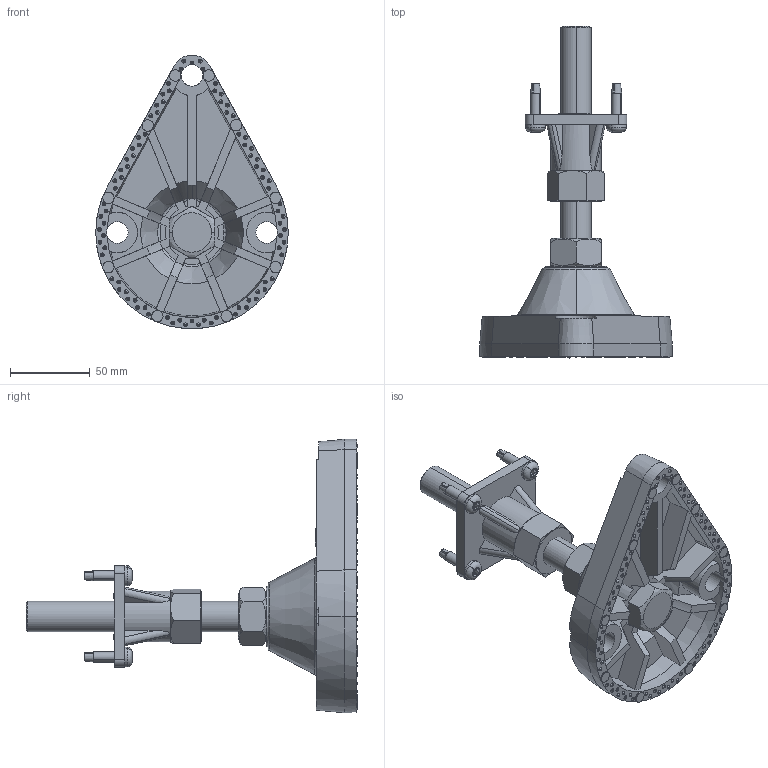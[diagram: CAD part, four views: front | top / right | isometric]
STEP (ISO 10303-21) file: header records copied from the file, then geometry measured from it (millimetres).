
FILE_DESCRIPTION (( 'STEP AP214' ), '1' );
FILE_NAME ('H020101100.STEP', '2014-02-11T15:57:14', ( 'Eric_Werenskjold' ), ( '' ), 'SwSTEP 2.0', 'SolidWorks 2014', '' );
FILE_SCHEMA (( 'AUTOMOTIVE_DESIGN' ));
Length unit declared in the file: inch
Products named in the file (5): 25C100PTFZ; Heavy Hex Nut_Derived Ansi Inch Standard_HHNUT 0.7500-16-B-N; H020052100; H0200821; H020101100
Assembly tree (7 placements, depth 2):
  H020101100
    H0200821
    H020052100
    Heavy Hex Nut_Derived Ansi Inch Standard_HHNUT 0.7500-16-B-N
    25C100PTFZ  x4
Bounding box: 120.65 x 208.05 x 171.41 mm (x, y, z)
Volume: 358444.5 mm3; surface area: 115899 mm2
Topology: 12 solids, 12 shells, 1406 faces, 3682 edges, 2421 vertices
Faces by surface type: plane 743, cylinder 288, cone 263, bspline 104, torus 8
Entity records: 57619 total; most frequent: CARTESIAN_POINT 14669, ORIENTED_EDGE 6632, DIRECTION 6253, EDGE_CURVE 3316, VERTEX_POINT 2184, AXIS2_PLACEMENT_3D 2138, LINE 1977, VECTOR 1977
